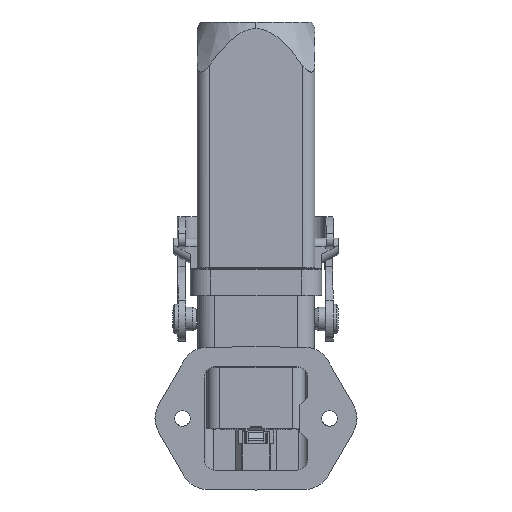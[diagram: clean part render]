
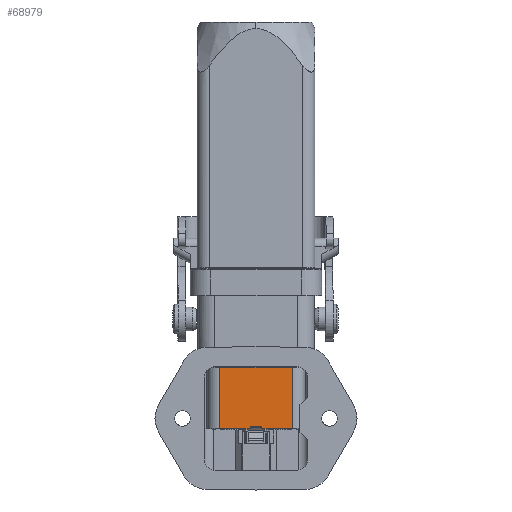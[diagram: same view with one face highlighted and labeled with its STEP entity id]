
A CAD part, front view. The second image highlights one B-rep face of the part: STEP entity #68979.
In plain terms, the highlighted planar face has unit normal (0, -1, 0) as drawn and (1, 0, 0) by its records, which use the part's own axes.
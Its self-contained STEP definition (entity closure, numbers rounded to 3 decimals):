
#1304 = ORIENTED_EDGE ( 'NONE', *, *, #32016, .T. ) ;
#2014 = LINE ( 'NONE', #24020, #34033 ) ;
#2321 = CARTESIAN_POINT ( 'NONE',  ( 10., -7.5, -17.3 ) ) ;
#4215 = DIRECTION ( 'NONE',  ( 0., 1., 0. ) ) ;
#5357 = LINE ( 'NONE', #36415, #46973 ) ;
#6195 = DIRECTION ( 'NONE',  ( 0., 0., 1. ) ) ;
#7299 = CARTESIAN_POINT ( 'NONE',  ( 10., 0., -5.1 ) ) ;
#7975 = DIRECTION ( 'NONE',  ( 0., 1., 0. ) ) ;
#8110 = VERTEX_POINT ( 'NONE', #9673 ) ;
#9673 = CARTESIAN_POINT ( 'NONE',  ( 10., -1.203, -17.1 ) ) ;
#9795 = CARTESIAN_POINT ( 'NONE',  ( 10., 7.6, -17.1 ) ) ;
#11890 = LINE ( 'NONE', #60365, #18281 ) ;
#12068 = ORIENTED_EDGE ( 'NONE', *, *, #14988, .F. ) ;
#12389 = CARTESIAN_POINT ( 'NONE',  ( 10., -7.5, -17.6 ) ) ;
#13252 = LINE ( 'NONE', #7299, #51512 ) ;
#14988 = EDGE_CURVE ( 'NONE', #37253, #24476, #13252, .T. ) ;
#15267 = ORIENTED_EDGE ( 'NONE', *, *, #62276, .T. ) ;
#15351 = CARTESIAN_POINT ( 'NONE',  ( 10., 1.205, -17.1 ) ) ;
#15670 = DIRECTION ( 'NONE',  ( 0., 0., -1. ) ) ;
#16473 = ORIENTED_EDGE ( 'NONE', *, *, #61470, .F. ) ;
#17402 = VECTOR ( 'NONE', #54202, 1000. ) ;
#17537 = CARTESIAN_POINT ( 'NONE',  ( 10., 7.6, -17.7 ) ) ;
#17872 = CARTESIAN_POINT ( 'NONE',  ( 10., 7.5, -17.6 ) ) ;
#18281 = VECTOR ( 'NONE', #33456, 1000. ) ;
#24020 = CARTESIAN_POINT ( 'NONE',  ( 10., -1.203, -17.7 ) ) ;
#24476 = VERTEX_POINT ( 'NONE', #35243 ) ;
#26171 = LINE ( 'NONE', #63468, #64993 ) ;
#27652 = EDGE_CURVE ( 'NONE', #24476, #47673, #43706, .T. ) ;
#28707 = EDGE_LOOP ( 'NONE', ( #1304, #15267, #68948, #41537, #34443, #67302, #12068, #16473, #52036 ) ) ;
#32016 = EDGE_CURVE ( 'NONE', #68683, #32409, #11890, .T. ) ;
#32393 = DIRECTION ( 'NONE',  ( 0., 1., 0. ) ) ;
#32409 = VERTEX_POINT ( 'NONE', #57346 ) ;
#33456 = DIRECTION ( 'NONE',  ( 0., 1., 0. ) ) ;
#33749 = DIRECTION ( 'NONE',  ( 0., 0., 1. ) ) ;
#34033 = VECTOR ( 'NONE', #33749, 1000. ) ;
#34443 = ORIENTED_EDGE ( 'NONE', *, *, #36363, .T. ) ;
#34630 = CARTESIAN_POINT ( 'NONE',  ( 10., -7.5, -5.1 ) ) ;
#35243 = CARTESIAN_POINT ( 'NONE',  ( 10., 7.5, -5.1 ) ) ;
#36363 = EDGE_CURVE ( 'NONE', #38400, #47673, #5357, .T. ) ;
#36415 = CARTESIAN_POINT ( 'NONE',  ( 10., 11., -17.6 ) ) ;
#37253 = VERTEX_POINT ( 'NONE', #59954 ) ;
#37318 = LINE ( 'NONE', #41536, #59605 ) ;
#38400 = VERTEX_POINT ( 'NONE', #57110 ) ;
#41536 = CARTESIAN_POINT ( 'NONE',  ( 10., -7.5, -5.1 ) ) ;
#41537 = ORIENTED_EDGE ( 'NONE', *, *, #50071, .T. ) ;
#42169 = EDGE_CURVE ( 'NONE', #68683, #59113, #50136, .T. ) ;
#43330 = FACE_OUTER_BOUND ( 'NONE', #28707, .T. ) ;
#43683 = PLANE ( 'NONE',  #59109 ) ;
#43706 = LINE ( 'NONE', #60129, #17402 ) ;
#46973 = VECTOR ( 'NONE', #53140, 1000. ) ;
#47673 = VERTEX_POINT ( 'NONE', #17872 ) ;
#48241 = DIRECTION ( 'NONE',  ( -1., 0., 0. ) ) ;
#49062 = VERTEX_POINT ( 'NONE', #15351 ) ;
#50071 = EDGE_CURVE ( 'NONE', #49062, #38400, #26171, .T. ) ;
#50136 = LINE ( 'NONE', #2321, #54221 ) ;
#51512 = VECTOR ( 'NONE', #7975, 1000. ) ;
#52036 = ORIENTED_EDGE ( 'NONE', *, *, #42169, .F. ) ;
#53140 = DIRECTION ( 'NONE',  ( 0., 1., 0. ) ) ;
#54202 = DIRECTION ( 'NONE',  ( 0., 0., -1. ) ) ;
#54221 = VECTOR ( 'NONE', #6195, 1000. ) ;
#54305 = VECTOR ( 'NONE', #32393, 1000. ) ;
#57110 = CARTESIAN_POINT ( 'NONE',  ( 10., 1.205, -17.6 ) ) ;
#57346 = CARTESIAN_POINT ( 'NONE',  ( 10., -1.203, -17.6 ) ) ;
#59109 = AXIS2_PLACEMENT_3D ( 'NONE', #17537, #48241, #64961 ) ;
#59113 = VERTEX_POINT ( 'NONE', #34630 ) ;
#59605 = VECTOR ( 'NONE', #4215, 1000. ) ;
#59954 = CARTESIAN_POINT ( 'NONE',  ( 10., 0., -5.1 ) ) ;
#60129 = CARTESIAN_POINT ( 'NONE',  ( 10., 7.5, -5.1 ) ) ;
#60365 = CARTESIAN_POINT ( 'NONE',  ( 10., 11., -17.6 ) ) ;
#61470 = EDGE_CURVE ( 'NONE', #59113, #37253, #37318, .T. ) ;
#62276 = EDGE_CURVE ( 'NONE', #32409, #8110, #2014, .T. ) ;
#63468 = CARTESIAN_POINT ( 'NONE',  ( 10., 1.205, -17.7 ) ) ;
#64590 = EDGE_CURVE ( 'NONE', #8110, #49062, #69061, .T. ) ;
#64961 = DIRECTION ( 'NONE',  ( 0., 0., 1. ) ) ;
#64993 = VECTOR ( 'NONE', #15670, 1000. ) ;
#67302 = ORIENTED_EDGE ( 'NONE', *, *, #27652, .F. ) ;
#68683 = VERTEX_POINT ( 'NONE', #12389 ) ;
#68948 = ORIENTED_EDGE ( 'NONE', *, *, #64590, .T. ) ;
#68979 = ADVANCED_FACE ( 'NONE', ( #43330 ), #43683, .F. ) ;
#69061 = LINE ( 'NONE', #9795, #54305 ) ;
